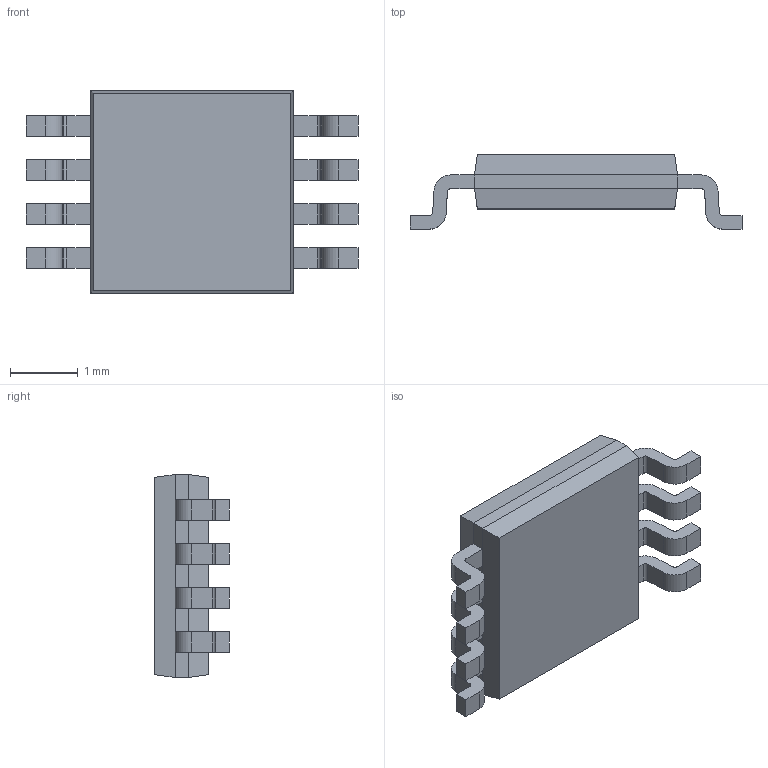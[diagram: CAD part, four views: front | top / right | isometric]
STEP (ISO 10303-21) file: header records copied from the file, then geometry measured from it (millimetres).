
FILE_DESCRIPTION (( 'STEP AP214' ), '1' );
FILE_NAME ('U8+1.STEP', '2020-12-03T14:30:56', ( '' ), ( '' ), 'SwSTEP 2.0', 'SolidWorks 2018', '' );
FILE_SCHEMA (( 'AUTOMOTIVE_DESIGN' ));
Length unit declared in the file: millimetre
Products named in the file (1): U8+1
Bounding box: 4.91 x 1.1 x 3 mm (x, y, z)
Volume: 7.7 mm3; surface area: 38.9 mm2
Topology: 9 solids, 9 shells, 126 faces, 316 edges, 208 vertices
Faces by surface type: plane 94, cylinder 32
Entity records: 3846 total; most frequent: CARTESIAN_POINT 651, DIRECTION 634, ORIENTED_EDGE 632, EDGE_CURVE 316, LINE 252, VECTOR 252, VERTEX_POINT 208, AXIS2_PLACEMENT_3D 191
